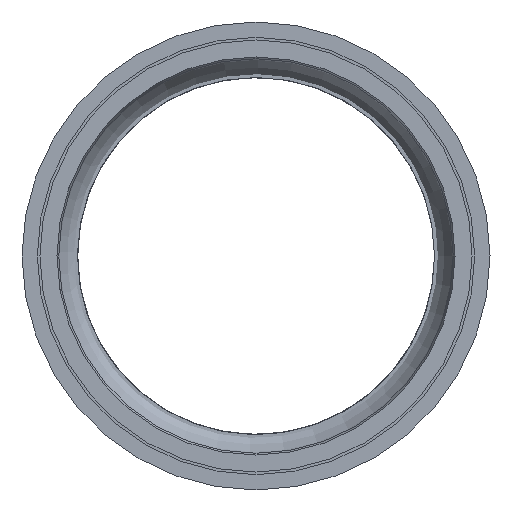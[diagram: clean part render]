
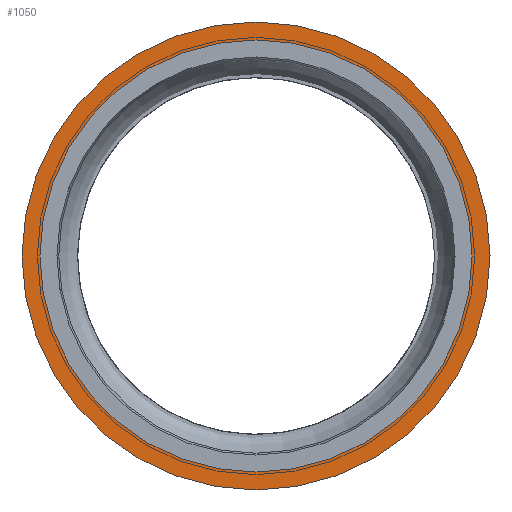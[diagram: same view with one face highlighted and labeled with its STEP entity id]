
A CAD part, left-side view. The second image highlights one B-rep face of the part: STEP entity #1050.
In plain terms, the highlighted planar face has unit normal (-1, 0, 0).
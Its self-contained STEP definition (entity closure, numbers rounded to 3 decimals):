
#133=PLANE('',#1170);
#195=FACE_BOUND('',#379,.T.);
#196=FACE_BOUND('',#380,.T.);
#379=EDGE_LOOP('',(#885));
#380=EDGE_LOOP('',(#886));
#431=CIRCLE('',#1169,53.5);
#432=CIRCLE('',#1171,49.4);
#535=VERTEX_POINT('',#4120);
#536=VERTEX_POINT('',#4123);
#653=EDGE_CURVE('',#535,#535,#431,.T.);
#654=EDGE_CURVE('',#536,#536,#432,.T.);
#885=ORIENTED_EDGE('',*,*,#654,.F.);
#886=ORIENTED_EDGE('',*,*,#653,.T.);
#1050=ADVANCED_FACE('',(#195,#196),#133,.T.);
#1169=AXIS2_PLACEMENT_3D('',#4121,#1395,#1396);
#1170=AXIS2_PLACEMENT_3D('',#4122,#1397,#1398);
#1171=AXIS2_PLACEMENT_3D('',#4124,#1399,#1400);
#1395=DIRECTION('center_axis',(-1.,0.,0.));
#1396=DIRECTION('ref_axis',(0.,0.,
-1.));
#1397=DIRECTION('center_axis',(-1.,0.,0.));
#1398=DIRECTION('ref_axis',(0.,0.,-1.));
#1399=DIRECTION('center_axis',(-1.,0.,0.));
#1400=DIRECTION('ref_axis',(0.,0.,
-1.));
#4120=CARTESIAN_POINT('',(-1554.99,-53.5,0.));
#4121=CARTESIAN_POINT('Origin',(-1554.99,0.,0.));
#4122=CARTESIAN_POINT('Origin',(-1554.99,-49.4,0.));
#4123=CARTESIAN_POINT('',(-1554.99,-49.4,0.));
#4124=CARTESIAN_POINT('Origin',(-1554.99,0.,0.));
